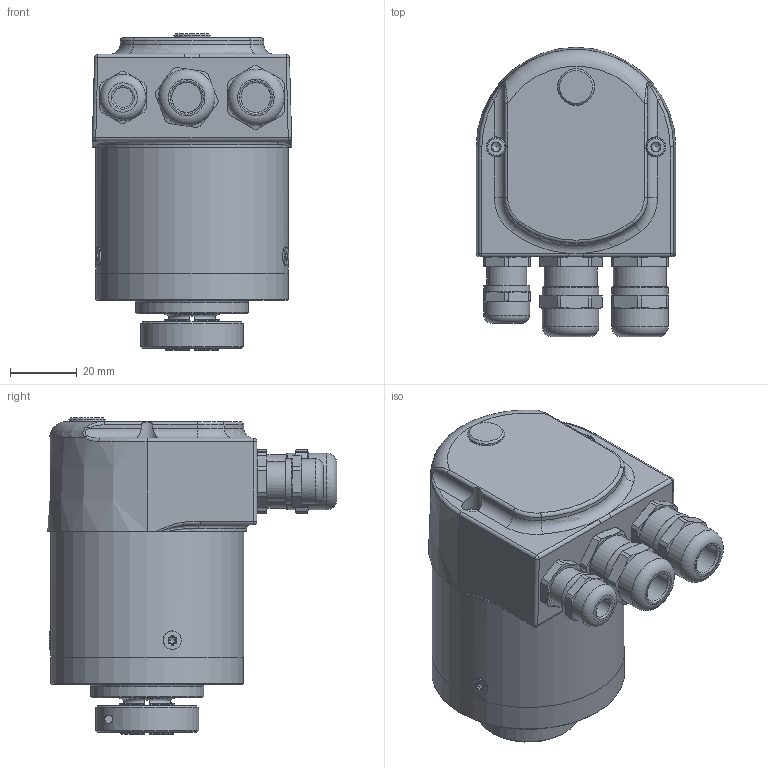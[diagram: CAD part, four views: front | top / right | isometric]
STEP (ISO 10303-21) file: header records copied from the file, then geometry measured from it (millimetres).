
FILE_DESCRIPTION(/* description */ ('Unknown'),/* implementation_level */ '2;1');
FILE_NAME(/* name */ 'EN580C.xL-BN12.GH2PB.xxxx.H',/* time_stamp */ '2023-04-13T07:55:38+02:00',/* author */ ('Unknown'),/* organization */ ('Baumer'),/* preprocessor_version */ 'ST-DEVELOPER v16.7',/* originating_system */ 'Solid Edge',/* authorisation */ 'Unknown');
FILE_SCHEMA (('AUTOMOTIVE_DESIGN {1 0 10303 214 3 1 1}'));
Length unit declared in the file: millimetre
Products named in the file (1): EN580C.xL-BN12.GH2PB.xxxx.H
Bounding box: 60 x 87 x 95.2 mm (x, y, z)
Volume: 238569.3 mm3; surface area: 33443.5 mm2
Topology: 2 solids, 2 shells, 500 faces, 1230 edges, 759 vertices
Faces by surface type: cylinder 166, plane 134, cone 110, torus 72, bspline 13, sphere 5
Full cylindrical faces by diameter (mm): 2.459 x15, 3 x1, 3.5 x1, 5.5 x3, 5.6 x1, 5.68 x2, 6 x3, 9 x2, 11 x1, 12 x2, 13.8 x2, 16 x2, 17 x5, 19 x1, 19.323 x1, 23.913 x1, 26 x1, 34 x1, 57.975 x1, 58 x1
Entity records: 17784 total; most frequent: CARTESIAN_POINT 3476, DIRECTION 2261, ORIENTED_EDGE 2128, EDGE_CURVE 1064, AXIS2_PLACEMENT_3D 997, VERTEX_POINT 712, FACE_BOUND 646, EDGE_LOOP 632
